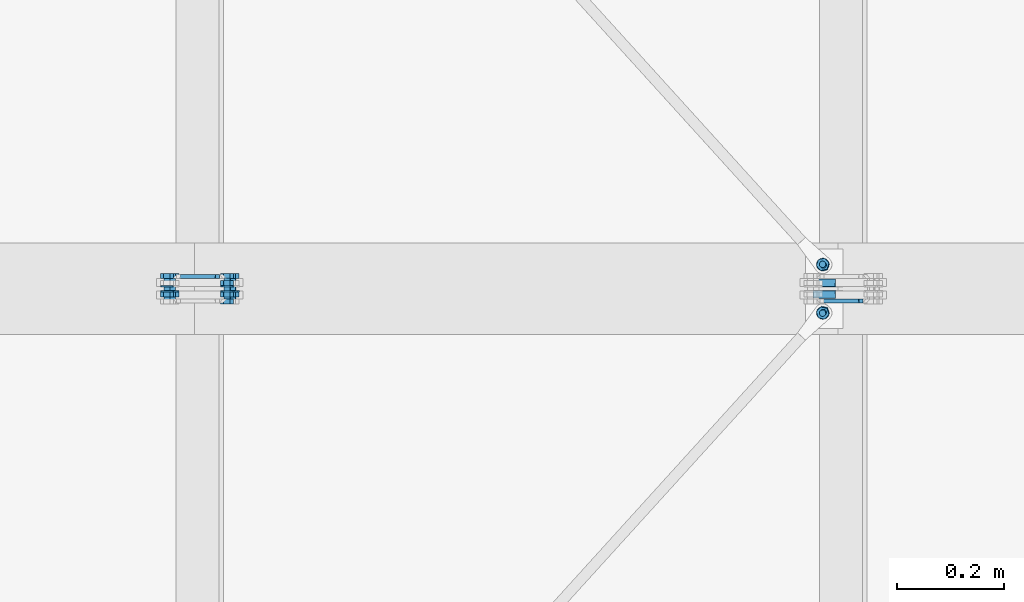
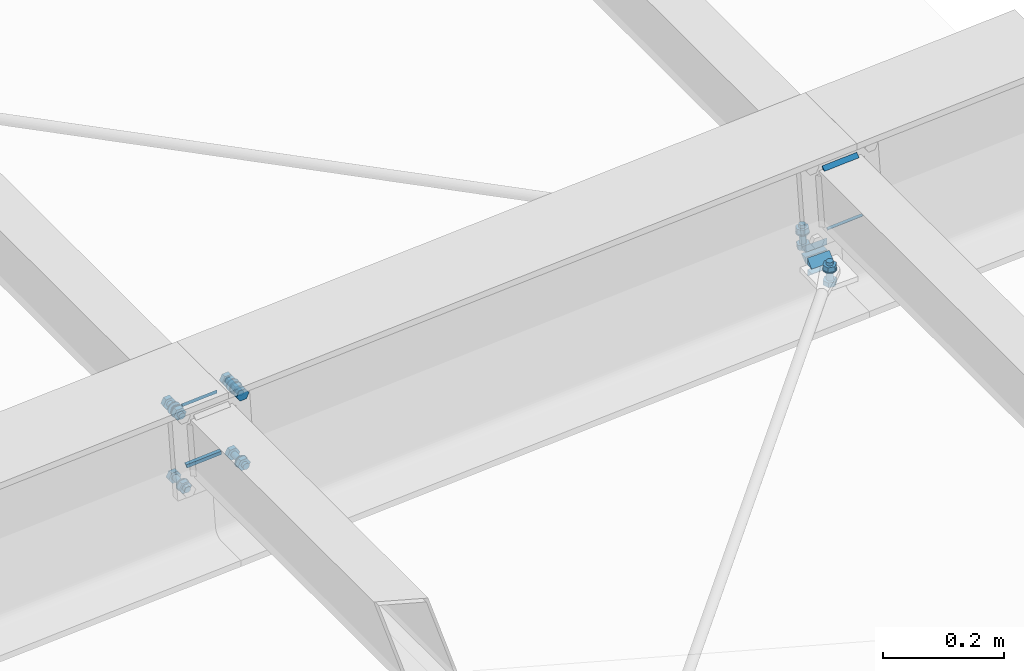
# One storey, part 51 of 72: 29 mechanical fasteners, 10 fasteners.
"""IFC4 building model written with IfcOpenShell, lengths in metres."""

from ifc_helpers import new_model, si_unit, frame, origin_with_axes, place, context, project, spatial, polyline, outline, extrude, type_object, element, save


model = new_model("IFC4")

# Units and contexts
model_context = context("Model", 3, precision=1e-05, world=origin_with_axes())
ifc_project = project(units=[si_unit("LENGTHUNIT", "METRE"), si_unit("AREAUNIT", "SQUARE_METRE"), si_unit("VOLUMEUNIT", "CUBIC_METRE"), si_unit("MASSUNIT", "GRAM", prefix="KILO"), si_unit("TIMEUNIT", "SECOND"), si_unit("PLANEANGLEUNIT", "RADIAN"), si_unit("SOLIDANGLEUNIT", "STERADIAN"), si_unit("THERMODYNAMICTEMPERATUREUNIT", "DEGREE_CELSIUS")], contexts=[model_context])

# Site, building, storey
placement_1 = place(None, origin_with_axes())
site = spatial("IfcSite", under=ifc_project, at=placement_1, Name="Italia", CompositionType="ELEMENT")
building = spatial("IfcBuilding", under=site, at=placement_1, Name="Pensilina", CompositionType="ELEMENT")
storey = spatial("IfcBuildingStorey", under=building, at=placement_1, Name="Storey 0", CompositionType="ELEMENT", Elevation=0.0)

# Mechanical fasteners
mechanical_fastener_type_1 = type_object("IfcMechanicalFastenerType", Name="Collegamento 0503_0502", PredefinedType="BOLT")
placement_2 = place(placement_1, origin_with_axes())
mechanical_fastener_1_placement = place(placement_2, origin_with_axes())
element("IfcMechanicalFastener", 1, at=mechanical_fastener_1_placement, inside=storey, type_object=mechanical_fastener_type_1, Name="Collegamento 0503_0502", NominalDiameter=0.024, context=model_context, shape_type="SweptSolid", body=[
    extrude(outline(polyline([(0.0, 0.0, 0.0), (-0.000409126, -0.00310564, 0.0), (-0.00160789, -0.00600004, 0.0), (-0.00351477, -0.00848532, 0.0), (-0.00600004, -0.0103922, 0.0), (-0.00889444, -0.011591, 0.0), (-0.0120001, -0.0120001, 0.0), (-0.0151057, -0.011591, 0.0), (-0.0180001, -0.0103922, 0.0), (-0.0204854, -0.00848532, 0.0), (-0.0223923, -0.00600004, 0.0), (-0.023591, -0.00310564, 0.0), (-0.0240002, 0.0, 0.0), (-0.023591, 0.00310564, 0.0), (-0.0223923, 0.00600004, 0.0), (-0.0204854, 0.00848532, 0.0), (-0.0180001, 0.0103922, 0.0), (-0.0151057, 0.011591, 0.0), (-0.0120001, 0.0120001, 0.0), (-0.00889444, 0.011591, 0.0), (-0.00600004, 0.0103922, 0.0), (-0.00351477, 0.00848532, 0.0), (-0.00160789, 0.00600004, 0.0), (-0.000409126, 0.00310564, 0.0), (0.0, 0.0, 0.0)])), frame((4.56362, 10.566, 4.01539), z_axis=(0.0, -1.0, 0.0), x_axis=(1.0, 0.0, 0.0)), (0.0, 0.0, 1.0), 0.00199986),
])
mechanical_fastener_type_2 = type_object("IfcMechanicalFastenerType", Name="Collegamento 0503_0502", PredefinedType="BOLT")
mechanical_fastener_2_placement = place(placement_2, origin_with_axes())
element("IfcMechanicalFastener", 2, at=mechanical_fastener_2_placement, inside=storey, type_object=mechanical_fastener_type_2, Name="Collegamento 0503_0502", NominalDiameter=0.012, context=model_context, shape_type="SweptSolid", body=[
    extrude(outline(polyline([(0.0, 0.0, 0.0), (-0.0119729, -0.000807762, 0.0), (-0.0186586, 0.00915718, 0.0), (-0.0133719, 0.0199299, 0.0), (-0.00139904, 0.0207376, 0.0), (0.00528669, 0.0107727, 0.0), (0.0, 0.0, 0.0)])), frame((4.67005, 10.541, 4.01296), z_axis=(0.0, -1.0, 0.0), x_axis=(1.0, 0.0, 0.0)), (0.0, 0.0, 1.0), 0.00959969),
])
mechanical_fastener_type_3 = type_object("IfcMechanicalFastenerType", Name="Collegamento 0503_0502", PredefinedType="BOLT")
mechanical_fastener_3_placement = place(placement_2, origin_with_axes())
element("IfcMechanicalFastener", 3, at=mechanical_fastener_3_placement, inside=storey, type_object=mechanical_fastener_type_3, Name="Collegamento 0503_0502", NominalDiameter=0.012, context=model_context, shape_type="SweptSolid", body=[
    extrude(outline(polyline([(0.0, 0.0, 0.0), (-0.000204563, -0.00155306, 0.0), (-0.000803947, -0.00299978, 0.0), (-0.00175762, -0.00424242, 0.0), (-0.00300026, -0.00519609, 0.0), (-0.00444698, -0.00579548, 0.0), (-0.00600004, -0.00600004, 0.0), (-0.0075531, -0.00579548, 0.0), (-0.00899982, -0.00519609, 0.0), (-0.0102425, -0.00424242, 0.0), (-0.0111961, -0.00299978, 0.0), (-0.0117955, -0.00155306, 0.0), (-0.0120001, 0.0, 0.0), (-0.0117955, 0.00155306, 0.0), (-0.0111961, 0.00299978, 0.0), (-0.0102425, 0.00424242, 0.0), (-0.00899982, 0.00519609, 0.0), (-0.0075531, 0.00579548, 0.0), (-0.00600004, 0.00600004, 0.0), (-0.00444698, 0.00579548, 0.0), (-0.00300026, 0.00519609, 0.0), (-0.00175762, 0.00424242, 0.0), (-0.000803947, 0.00299978, 0.0), (-0.000204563, 0.00155306, 0.0), (0.0, 0.0, 0.0)])), frame((4.66936, 10.582, 4.02292), z_axis=(0.0, -1.0, 0.0), x_axis=(1.0, 0.0, 0.0)), (0.0, 0.0, 1.0), 0.0410004),
])
mechanical_fastener_type_4 = type_object("IfcMechanicalFastenerType", Name="Collegamento 0503_0502", PredefinedType="BOLT")
mechanical_fastener_4_placement = place(placement_2, origin_with_axes())
element("IfcMechanicalFastener", 4, at=mechanical_fastener_4_placement, inside=storey, type_object=mechanical_fastener_type_4, Name="Collegamento 0503_0502", NominalDiameter=0.012, context=model_context, shape_type="SweptSolid", body=[
    extrude(outline(polyline([(0.0, 0.0, 0.0), (-0.0119729, -0.000807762, 0.0), (-0.0186586, 0.00915718, 0.0), (-0.0133719, 0.0199299, 0.0), (-0.00139904, 0.0207376, 0.0), (0.00528669, 0.0107727, 0.0), (0.0, 0.0, 0.0)])), frame((4.67005, 10.5756, 4.01296), z_axis=(0.0, -1.0, 0.0), x_axis=(1.0, 0.0, 0.0)), (0.0, 0.0, 1.0), 0.00959969),
])
mechanical_fastener_type_5 = type_object("IfcMechanicalFastenerType", Name="Collegamento 0503_0502", PredefinedType="BOLT")
mechanical_fastener_5_placement = place(placement_2, origin_with_axes())
element("IfcMechanicalFastener", 5, at=mechanical_fastener_5_placement, inside=storey, type_object=mechanical_fastener_type_5, Name="Collegamento 0503_0502", NominalDiameter=0.024, context=model_context, shape_type="SweptSolid", body=[
    extrude(outline(polyline([(0.0, 0.0, 0.0), (-0.000409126, -0.00310564, 0.0), (-0.00160789, -0.00600004, 0.0), (-0.00351477, -0.00848532, 0.0), (-0.00600004, -0.0103922, 0.0), (-0.00889444, -0.011591, 0.0), (-0.0120001, -0.0120001, 0.0), (-0.0151057, -0.011591, 0.0), (-0.0180001, -0.0103922, 0.0), (-0.0204854, -0.00848532, 0.0), (-0.0223923, -0.00600004, 0.0), (-0.023591, -0.00310564, 0.0), (-0.0240002, 0.0, 0.0), (-0.023591, 0.00310564, 0.0), (-0.0223923, 0.00600004, 0.0), (-0.0204854, 0.00848532, 0.0), (-0.0180001, 0.0103922, 0.0), (-0.0151057, 0.011591, 0.0), (-0.0120001, 0.0120001, 0.0), (-0.00889444, 0.011591, 0.0), (-0.00600004, 0.0103922, 0.0), (-0.00351477, 0.00848532, 0.0), (-0.00160789, 0.00600004, 0.0), (-0.000409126, 0.00310564, 0.0), (0.0, 0.0, 0.0)])), frame((4.67536, 10.566, 4.02292), z_axis=(0.0, -1.0, 0.0), x_axis=(1.0, 0.0, 0.0)), (0.0, 0.0, 1.0), 0.00199986),
])

# Fasteners
fastener_type_1 = type_object("IfcFastenerType", Name="Collegamento 0503_0504", PredefinedType="WELD")
fastener_1_placement = place(placement_2, origin_with_axes())
element("IfcFastener", 6, at=fastener_1_placement, inside=storey, type_object=fastener_type_1, Name="Collegamento 0503_0504", context=model_context, shape_type="SweptSolid", body=[
    extrude(outline(polyline([(0.0, 0.0, 0.0), (0.00717354, -0.00695825, 0.0), (0.0, -0.00695825, 0.0), (0.0, 0.0, 0.0)])), frame((4.57513, 10.5789, 4.00786), z_axis=(0.997731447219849, 0.0, 0.06731953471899), x_axis=(0.0, 1.0, 0.0)), (0.0, 0.0, 1.0), 0.0661003),
])
fastener_type_2 = type_object("IfcFastenerType", Name="Collegamento 0503_0504", PredefinedType="WELD")
fastener_2_placement = place(placement_2, origin_with_axes())
element("IfcFastener", 7, at=fastener_2_placement, inside=storey, type_object=fastener_type_2, Name="Collegamento 0503_0504", context=model_context, shape_type="SweptSolid", body=[
    extrude(outline(polyline([(0.0, 0.0, 0.0), (-0.00717354, 0.00695848, 0.0), (0.0, 0.00695848, 0.0), (0.0, 0.0, 0.0)])), frame((4.65009, 10.5789, 3.8788), z_axis=(-0.997731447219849, 0.0, -0.06731953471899), x_axis=(0.0, -1.0, 0.0)), (0.0, 0.0, 1.0), 0.0661003),
])
fastener_type_3 = type_object("IfcFastenerType", Name="Collegamento 0503_0504", PredefinedType="WELD")
fastener_3_placement = place(placement_2, origin_with_axes())
element("IfcFastener", 8, at=fastener_3_placement, inside=storey, type_object=fastener_type_3, Name="Collegamento 0503_0504", context=model_context, shape_type="SweptSolid", body=[
    extrude(outline(polyline([(0.0, 0.0, 0.0), (0.00717354, -0.00695825, 0.0), (0.0, -0.00695825, 0.0), (0.0, 0.0, 0.0)])), frame((4.57513, 10.5789, 4.00786), z_axis=(0.997731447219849, 0.0, 0.06731953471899), x_axis=(0.0, 1.0, 0.0)), (0.0, 0.0, 1.0), 0.0661003),
])
fastener_type_4 = type_object("IfcFastenerType", Name="Collegamento 0503_0504", PredefinedType="WELD")
fastener_4_placement = place(placement_2, origin_with_axes())
element("IfcFastener", 9, at=fastener_4_placement, inside=storey, type_object=fastener_type_4, Name="Collegamento 0503_0504", context=model_context, shape_type="SweptSolid", body=[
    extrude(outline(polyline([(0.0, 0.0, 0.0), (-0.00717354, 0.00695848, 0.0), (0.0, 0.00695848, 0.0), (0.0, 0.0, 0.0)])), frame((4.65009, 10.5789, 3.8788), z_axis=(-0.997731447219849, 0.0, -0.06731953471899), x_axis=(0.0, -1.0, 0.0)), (0.0, 0.0, 1.0), 0.0661003),
])

# Mechanical fasteners
mechanical_fastener_type_6 = type_object("IfcMechanicalFastenerType", Name="Collegamento 0503_0504", PredefinedType="BOLT")
mechanical_fastener_6_placement = place(placement_2, origin_with_axes())
element("IfcMechanicalFastener", 10, at=mechanical_fastener_6_placement, inside=storey, type_object=mechanical_fastener_type_6, Name="Collegamento 0503_0504", NominalDiameter=0.0119998, context=model_context, shape_type="SweptSolid", body=[
    extrude(outline(polyline([(0.0, 0.0, 0.0), (-0.0119729, 0.000807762, 0.0), (-0.0172596, 0.0115805, 0.0), (-0.0105739, 0.0215454, 0.0), (0.00139904, 0.0207374, 0.0), (0.00668573, 0.00996494, 0.0), (0.0, 0.0, 0.0)])), frame((4.66831, 10.579, 3.8605), z_axis=(0.0, 1.0, 0.0), x_axis=(-1.0, 0.0, 0.0)), (0.0, 0.0, 1.0), 0.00959969),
])
mechanical_fastener_type_7 = type_object("IfcMechanicalFastenerType", Name="Collegamento 0503_0504", PredefinedType="BOLT")
mechanical_fastener_7_placement = place(placement_2, origin_with_axes())
element("IfcMechanicalFastener", 11, at=mechanical_fastener_7_placement, inside=storey, type_object=mechanical_fastener_type_7, Name="Collegamento 0503_0504", NominalDiameter=0.012, context=model_context, shape_type="SweptSolid", body=[
    extrude(outline(polyline([(0.0, 0.0, 0.0), (-0.000204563, -0.00155282, 0.0), (-0.000803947, -0.00300002, 0.0), (-0.00175762, -0.00424266, 0.0), (-0.00300026, -0.00519609, 0.0), (-0.00444698, -0.00579548, 0.0), (-0.00600004, -0.00600004, 0.0), (-0.0075531, -0.00579548, 0.0), (-0.00899982, -0.00519609, 0.0), (-0.0102425, -0.00424266, 0.0), (-0.0111961, -0.00300002, 0.0), (-0.0117955, -0.00155282, 0.0), (-0.0120001, 0.0, 0.0), (-0.0117955, 0.00155282, 0.0), (-0.0111961, 0.00300002, 0.0), (-0.0102425, 0.00424266, 0.0), (-0.00899982, 0.00519609, 0.0), (-0.0075531, 0.00579548, 0.0), (-0.00600004, 0.00600004, 0.0), (-0.00444698, 0.00579548, 0.0), (-0.00300026, 0.00519609, 0.0), (-0.00175762, 0.00424266, 0.0), (-0.000803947, 0.00300002, 0.0), (-0.000204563, 0.00155282, 0.0), (0.0, 0.0, 0.0)])), frame((4.6676, 10.538, 3.87127), z_axis=(0.0, 1.0, 0.0), x_axis=(-1.0, 0.0, 0.0)), (0.0, 0.0, 1.0), 0.0410004),
])
mechanical_fastener_type_8 = type_object("IfcMechanicalFastenerType", Name="Collegamento 0503_0504", PredefinedType="BOLT")
mechanical_fastener_8_placement = place(placement_2, origin_with_axes())
element("IfcMechanicalFastener", 12, at=mechanical_fastener_8_placement, inside=storey, type_object=mechanical_fastener_type_8, Name="Collegamento 0503_0504", NominalDiameter=0.0119998, context=model_context, shape_type="SweptSolid", body=[
    extrude(outline(polyline([(0.0, 0.0, 0.0), (-0.0119729, 0.000807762, 0.0), (-0.0172596, 0.0115805, 0.0), (-0.0105739, 0.0215454, 0.0), (0.00139904, 0.0207374, 0.0), (0.00668573, 0.00996494, 0.0), (0.0, 0.0, 0.0)])), frame((4.66831, 10.5444, 3.8605), z_axis=(0.0, 1.0, 0.0), x_axis=(-1.0, 0.0, 0.0)), (0.0, 0.0, 1.0), 0.00959969),
])
mechanical_fastener_type_9 = type_object("IfcMechanicalFastenerType", Name="Collegamento 0503_0504", PredefinedType="BOLT")
mechanical_fastener_9_placement = place(placement_2, origin_with_axes())
element("IfcMechanicalFastener", 13, at=mechanical_fastener_9_placement, inside=storey, type_object=mechanical_fastener_type_9, Name="Collegamento 0503_0504", NominalDiameter=0.024, context=model_context, shape_type="SweptSolid", body=[
    extrude(outline(polyline([(0.0, 0.0, 0.0), (-0.000409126, -0.00310588, 0.0), (-0.00160789, -0.00600004, 0.0), (-0.00351477, -0.00848532, 0.0), (-0.00600004, -0.0103922, 0.0), (-0.00889444, -0.0115912, 0.0), (-0.0120001, -0.0120001, 0.0), (-0.0151057, -0.0115912, 0.0), (-0.0180001, -0.0103922, 0.0), (-0.0204854, -0.00848532, 0.0), (-0.0223923, -0.00600004, 0.0), (-0.023591, -0.00310588, 0.0), (-0.0240002, 0.0, 0.0), (-0.023591, 0.00310588, 0.0), (-0.0223923, 0.00600004, 0.0), (-0.0204854, 0.00848532, 0.0), (-0.0180001, 0.0103922, 0.0), (-0.0151057, 0.0115912, 0.0), (-0.0120001, 0.0120001, 0.0), (-0.00889444, 0.0115912, 0.0), (-0.00600004, 0.0103922, 0.0), (-0.00351477, 0.00848532, 0.0), (-0.00160789, 0.00600004, 0.0), (-0.000409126, 0.00310588, 0.0), (0.0, 0.0, 0.0)])), frame((4.6616, 10.554, 3.87127), z_axis=(0.0, 1.0, 0.0), x_axis=(-1.0, 0.0, 0.0)), (0.0, 0.0, 1.0), 0.00199986),
])
mechanical_fastener_type_10 = type_object("IfcMechanicalFastenerType", Name="Collegamento 0503_0504", PredefinedType="BOLT")
mechanical_fastener_10_placement = place(placement_2, origin_with_axes())
element("IfcMechanicalFastener", 14, at=mechanical_fastener_10_placement, inside=storey, type_object=mechanical_fastener_type_10, Name="Collegamento 0503_0504", NominalDiameter=0.0119998, context=model_context, shape_type="SweptSolid", body=[
    extrude(outline(polyline([(0.0, 0.0, 0.0), (-0.0119729, 0.000808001, 0.0), (-0.0172596, 0.0115805, 0.0), (-0.0105739, 0.0215454, 0.0), (0.00139904, 0.0207376, 0.0), (0.00668573, 0.00996494, 0.0), (0.0, 0.0, 0.0)])), frame((4.55656, 10.579, 3.85296), z_axis=(0.0, 1.0, 0.0), x_axis=(-1.0, 0.0, 0.0)), (0.0, 0.0, 1.0), 0.00959969),
])
mechanical_fastener_type_11 = type_object("IfcMechanicalFastenerType", Name="Collegamento 0503_0504", PredefinedType="BOLT")
mechanical_fastener_11_placement = place(placement_2, origin_with_axes())
element("IfcMechanicalFastener", 15, at=mechanical_fastener_11_placement, inside=storey, type_object=mechanical_fastener_type_11, Name="Collegamento 0503_0504", NominalDiameter=0.012, context=model_context, shape_type="SweptSolid", body=[
    extrude(outline(polyline([(0.0, 0.0, 0.0), (-0.000204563, -0.00155282, 0.0), (-0.000803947, -0.00300002, 0.0), (-0.00175762, -0.00424266, 0.0), (-0.00300026, -0.00519609, 0.0), (-0.00444698, -0.00579548, 0.0), (-0.00600004, -0.00600004, 0.0), (-0.0075531, -0.00579548, 0.0), (-0.00899982, -0.00519609, 0.0), (-0.0102425, -0.00424266, 0.0), (-0.0111961, -0.00300002, 0.0), (-0.0117955, -0.00155282, 0.0), (-0.0120001, 0.0, 0.0), (-0.0117955, 0.00155282, 0.0), (-0.0111961, 0.00300002, 0.0), (-0.0102425, 0.00424266, 0.0), (-0.00899982, 0.00519609, 0.0), (-0.0075531, 0.00579548, 0.0), (-0.00600004, 0.00600004, 0.0), (-0.00444698, 0.00579548, 0.0), (-0.00300026, 0.00519609, 0.0), (-0.00175762, 0.00424266, 0.0), (-0.000803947, 0.00300002, 0.0), (-0.000204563, 0.00155282, 0.0), (0.0, 0.0, 0.0)])), frame((4.55585, 10.538, 3.86373), z_axis=(0.0, 1.0, 0.0), x_axis=(-1.0, 0.0, 0.0)), (0.0, 0.0, 1.0), 0.0410004),
])
mechanical_fastener_type_12 = type_object("IfcMechanicalFastenerType", Name="Collegamento 0503_0504", PredefinedType="BOLT")
mechanical_fastener_12_placement = place(placement_2, origin_with_axes())
element("IfcMechanicalFastener", 16, at=mechanical_fastener_12_placement, inside=storey, type_object=mechanical_fastener_type_12, Name="Collegamento 0503_0504", NominalDiameter=0.0119998, context=model_context, shape_type="SweptSolid", body=[
    extrude(outline(polyline([(0.0, 0.0, 0.0), (-0.0119729, 0.000808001, 0.0), (-0.0172596, 0.0115805, 0.0), (-0.0105739, 0.0215454, 0.0), (0.00139904, 0.0207376, 0.0), (0.00668573, 0.00996494, 0.0), (0.0, 0.0, 0.0)])), frame((4.55656, 10.5444, 3.85296), z_axis=(0.0, 1.0, 0.0), x_axis=(-1.0, 0.0, 0.0)), (0.0, 0.0, 1.0), 0.00959969),
])
mechanical_fastener_type_13 = type_object("IfcMechanicalFastenerType", Name="Collegamento 0503_0504", PredefinedType="BOLT")
mechanical_fastener_13_placement = place(placement_2, origin_with_axes())
element("IfcMechanicalFastener", 17, at=mechanical_fastener_13_placement, inside=storey, type_object=mechanical_fastener_type_13, Name="Collegamento 0503_0504", NominalDiameter=0.024, context=model_context, shape_type="SweptSolid", body=[
    extrude(outline(polyline([(0.0, 0.0, 0.0), (-0.000409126, -0.00310588, 0.0), (-0.00160789, -0.00600004, 0.0), (-0.00351477, -0.00848532, 0.0), (-0.00600004, -0.0103922, 0.0), (-0.00889444, -0.0115912, 0.0), (-0.0120001, -0.0120001, 0.0), (-0.0151057, -0.0115912, 0.0), (-0.0180001, -0.0103922, 0.0), (-0.0204854, -0.00848532, 0.0), (-0.0223923, -0.00600004, 0.0), (-0.023591, -0.00310588, 0.0), (-0.0240002, 0.0, 0.0), (-0.023591, 0.00310588, 0.0), (-0.0223923, 0.00600004, 0.0), (-0.0204854, 0.00848532, 0.0), (-0.0180001, 0.0103922, 0.0), (-0.0151057, 0.0115912, 0.0), (-0.0120001, 0.0120001, 0.0), (-0.00889444, 0.0115912, 0.0), (-0.00600004, 0.0103922, 0.0), (-0.00351477, 0.00848532, 0.0), (-0.00160789, 0.00600004, 0.0), (-0.000409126, 0.00310588, 0.0), (0.0, 0.0, 0.0)])), frame((4.54985, 10.554, 3.86373), z_axis=(0.0, 1.0, 0.0), x_axis=(-1.0, 0.0, 0.0)), (0.0, 0.0, 1.0), 0.00199986),
])
mechanical_fastener_type_14 = type_object("IfcMechanicalFastenerType", Name="Collegamento 0503_0504", PredefinedType="BOLT")
mechanical_fastener_14_placement = place(placement_2, origin_with_axes())
element("IfcMechanicalFastener", 18, at=mechanical_fastener_14_placement, inside=storey, type_object=mechanical_fastener_type_14, Name="Collegamento 0503_0504", NominalDiameter=0.012, context=model_context, shape_type="SweptSolid", body=[
    extrude(outline(polyline([(0.0, 0.0, 0.0), (-0.0119729, 0.000807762, 0.0), (-0.0172596, 0.0115805, 0.0), (-0.0105739, 0.0215454, 0.0), (0.00139904, 0.0207376, 0.0), (0.00668573, 0.00996494, 0.0), (0.0, 0.0, 0.0)])), frame((4.65808, 10.579, 4.01215), z_axis=(0.0, 1.0, 0.0), x_axis=(-1.0, 0.0, 0.0)), (0.0, 0.0, 1.0), 0.00959969),
])
mechanical_fastener_type_15 = type_object("IfcMechanicalFastenerType", Name="Collegamento 0503_0504", PredefinedType="BOLT")
mechanical_fastener_15_placement = place(placement_2, origin_with_axes())
element("IfcMechanicalFastener", 19, at=mechanical_fastener_15_placement, inside=storey, type_object=mechanical_fastener_type_15, Name="Collegamento 0503_0504", NominalDiameter=0.012, context=model_context, shape_type="SweptSolid", body=[
    extrude(outline(polyline([(0.0, 0.0, 0.0), (-0.000204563, -0.00155306, 0.0), (-0.000803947, -0.00299978, 0.0), (-0.00175762, -0.00424242, 0.0), (-0.00300026, -0.00519609, 0.0), (-0.00444698, -0.00579548, 0.0), (-0.00600004, -0.00600004, 0.0), (-0.0075531, -0.00579548, 0.0), (-0.00899982, -0.00519609, 0.0), (-0.0102425, -0.00424242, 0.0), (-0.0111961, -0.00299978, 0.0), (-0.0117955, -0.00155306, 0.0), (-0.0120001, 0.0, 0.0), (-0.0117955, 0.00155306, 0.0), (-0.0111961, 0.00299978, 0.0), (-0.0102425, 0.00424242, 0.0), (-0.00899982, 0.00519609, 0.0), (-0.0075531, 0.00579548, 0.0), (-0.00600004, 0.00600004, 0.0), (-0.00444698, 0.00579548, 0.0), (-0.00300026, 0.00519609, 0.0), (-0.00175762, 0.00424242, 0.0), (-0.000803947, 0.00299978, 0.0), (-0.000204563, 0.00155306, 0.0), (0.0, 0.0, 0.0)])), frame((4.65736, 10.538, 4.02292), z_axis=(0.0, 1.0, 0.0), x_axis=(-1.0, 0.0, 0.0)), (0.0, 0.0, 1.0), 0.0410004),
])
mechanical_fastener_type_16 = type_object("IfcMechanicalFastenerType", Name="Collegamento 0503_0504", PredefinedType="BOLT")
mechanical_fastener_16_placement = place(placement_2, origin_with_axes())
element("IfcMechanicalFastener", 20, at=mechanical_fastener_16_placement, inside=storey, type_object=mechanical_fastener_type_16, Name="Collegamento 0503_0504", NominalDiameter=0.012, context=model_context, shape_type="SweptSolid", body=[
    extrude(outline(polyline([(0.0, 0.0, 0.0), (-0.0119729, 0.000807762, 0.0), (-0.0172596, 0.0115805, 0.0), (-0.0105739, 0.0215454, 0.0), (0.00139904, 0.0207376, 0.0), (0.00668573, 0.00996494, 0.0), (0.0, 0.0, 0.0)])), frame((4.65808, 10.5444, 4.01215), z_axis=(0.0, 1.0, 0.0), x_axis=(-1.0, 0.0, 0.0)), (0.0, 0.0, 1.0), 0.00959969),
])
mechanical_fastener_type_17 = type_object("IfcMechanicalFastenerType", Name="Collegamento 0503_0504", PredefinedType="BOLT")
mechanical_fastener_17_placement = place(placement_2, origin_with_axes())
element("IfcMechanicalFastener", 21, at=mechanical_fastener_17_placement, inside=storey, type_object=mechanical_fastener_type_17, Name="Collegamento 0503_0504", NominalDiameter=0.024, context=model_context, shape_type="SweptSolid", body=[
    extrude(outline(polyline([(0.0, 0.0, 0.0), (-0.000409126, -0.00310564, 0.0), (-0.00160789, -0.00600004, 0.0), (-0.00351477, -0.00848532, 0.0), (-0.00600004, -0.0103922, 0.0), (-0.00889444, -0.011591, 0.0), (-0.0120001, -0.0120001, 0.0), (-0.0151057, -0.011591, 0.0), (-0.0180001, -0.0103922, 0.0), (-0.0204854, -0.00848532, 0.0), (-0.0223923, -0.00600004, 0.0), (-0.023591, -0.00310564, 0.0), (-0.0240002, 0.0, 0.0), (-0.023591, 0.00310564, 0.0), (-0.0223923, 0.00600004, 0.0), (-0.0204854, 0.00848532, 0.0), (-0.0180001, 0.0103922, 0.0), (-0.0151057, 0.011591, 0.0), (-0.0120001, 0.0120001, 0.0), (-0.00889444, 0.011591, 0.0), (-0.00600004, 0.0103922, 0.0), (-0.00351477, 0.00848532, 0.0), (-0.00160789, 0.00600004, 0.0), (-0.000409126, 0.00310564, 0.0), (0.0, 0.0, 0.0)])), frame((4.65136, 10.554, 4.02292), z_axis=(0.0, 1.0, 0.0), x_axis=(-1.0, 0.0, 0.0)), (0.0, 0.0, 1.0), 0.00199986),
])
mechanical_fastener_type_18 = type_object("IfcMechanicalFastenerType", Name="Collegamento 0503_0504", PredefinedType="BOLT")
mechanical_fastener_18_placement = place(placement_2, origin_with_axes())
element("IfcMechanicalFastener", 22, at=mechanical_fastener_18_placement, inside=storey, type_object=mechanical_fastener_type_18, Name="Collegamento 0503_0504", NominalDiameter=0.012, context=model_context, shape_type="SweptSolid", body=[
    extrude(outline(polyline([(0.0, 0.0, 0.0), (-0.0119729, 0.000807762, 0.0), (-0.0172596, 0.0115805, 0.0), (-0.0105739, 0.0215454, 0.0), (0.00139904, 0.0207376, 0.0), (0.00668573, 0.00996494, 0.0), (0.0, 0.0, 0.0)])), frame((4.54633, 10.579, 4.00461), z_axis=(0.0, 1.0, 0.0), x_axis=(-1.0, 0.0, 0.0)), (0.0, 0.0, 1.0), 0.00959969),
])
mechanical_fastener_type_19 = type_object("IfcMechanicalFastenerType", Name="Collegamento 0503_0504", PredefinedType="BOLT")
mechanical_fastener_19_placement = place(placement_2, origin_with_axes())
element("IfcMechanicalFastener", 23, at=mechanical_fastener_19_placement, inside=storey, type_object=mechanical_fastener_type_19, Name="Collegamento 0503_0504", NominalDiameter=0.012, context=model_context, shape_type="SweptSolid", body=[
    extrude(outline(polyline([(0.0, 0.0, 0.0), (-0.000204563, -0.00155306, 0.0), (-0.000803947, -0.00299978, 0.0), (-0.00175762, -0.00424242, 0.0), (-0.00300026, -0.00519609, 0.0), (-0.00444698, -0.00579548, 0.0), (-0.00600004, -0.00600004, 0.0), (-0.0075531, -0.00579548, 0.0), (-0.00899982, -0.00519609, 0.0), (-0.0102425, -0.00424242, 0.0), (-0.0111961, -0.00299978, 0.0), (-0.0117955, -0.00155306, 0.0), (-0.0120001, 0.0, 0.0), (-0.0117955, 0.00155306, 0.0), (-0.0111961, 0.00299978, 0.0), (-0.0102425, 0.00424242, 0.0), (-0.00899982, 0.00519609, 0.0), (-0.0075531, 0.00579548, 0.0), (-0.00600004, 0.00600004, 0.0), (-0.00444698, 0.00579548, 0.0), (-0.00300026, 0.00519609, 0.0), (-0.00175762, 0.00424242, 0.0), (-0.000803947, 0.00299978, 0.0), (-0.000204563, 0.00155306, 0.0), (0.0, 0.0, 0.0)])), frame((4.54562, 10.538, 4.01539), z_axis=(0.0, 1.0, 0.0), x_axis=(-1.0, 0.0, 0.0)), (0.0, 0.0, 1.0), 0.0410004),
])
mechanical_fastener_type_20 = type_object("IfcMechanicalFastenerType", Name="Collegamento 0503_0504", PredefinedType="BOLT")
mechanical_fastener_20_placement = place(placement_2, origin_with_axes())
element("IfcMechanicalFastener", 24, at=mechanical_fastener_20_placement, inside=storey, type_object=mechanical_fastener_type_20, Name="Collegamento 0503_0504", NominalDiameter=0.012, context=model_context, shape_type="SweptSolid", body=[
    extrude(outline(polyline([(0.0, 0.0, 0.0), (-0.0119729, 0.000807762, 0.0), (-0.0172596, 0.0115805, 0.0), (-0.0105739, 0.0215454, 0.0), (0.00139904, 0.0207376, 0.0), (0.00668573, 0.00996494, 0.0), (0.0, 0.0, 0.0)])), frame((4.54633, 10.5444, 4.00461), z_axis=(0.0, 1.0, 0.0), x_axis=(-1.0, 0.0, 0.0)), (0.0, 0.0, 1.0), 0.00959969),
])
mechanical_fastener_type_21 = type_object("IfcMechanicalFastenerType", Name="Collegamento 0503_0504", PredefinedType="BOLT")
mechanical_fastener_21_placement = place(placement_2, origin_with_axes())
element("IfcMechanicalFastener", 25, at=mechanical_fastener_21_placement, inside=storey, type_object=mechanical_fastener_type_21, Name="Collegamento 0503_0504", NominalDiameter=0.024, context=model_context, shape_type="SweptSolid", body=[
    extrude(outline(polyline([(0.0, 0.0, 0.0), (-0.000409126, -0.00310564, 0.0), (-0.00160789, -0.00600004, 0.0), (-0.00351477, -0.00848532, 0.0), (-0.00600004, -0.0103922, 0.0), (-0.00889444, -0.011591, 0.0), (-0.0120001, -0.0120001, 0.0), (-0.0151057, -0.011591, 0.0), (-0.0180001, -0.0103922, 0.0), (-0.0204854, -0.00848532, 0.0), (-0.0223923, -0.00600004, 0.0), (-0.023591, -0.00310564, 0.0), (-0.0240002, 0.0, 0.0), (-0.023591, 0.00310564, 0.0), (-0.0223923, 0.00600004, 0.0), (-0.0204854, 0.00848532, 0.0), (-0.0180001, 0.0103922, 0.0), (-0.0151057, 0.011591, 0.0), (-0.0120001, 0.0120001, 0.0), (-0.00889444, 0.011591, 0.0), (-0.00600004, 0.0103922, 0.0), (-0.00351477, 0.00848532, 0.0), (-0.00160789, 0.00600004, 0.0), (-0.000409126, 0.00310564, 0.0), (0.0, 0.0, 0.0)])), frame((4.53962, 10.554, 4.01539), z_axis=(0.0, 1.0, 0.0), x_axis=(-1.0, 0.0, 0.0)), (0.0, 0.0, 1.0), 0.00199986),
])
mechanical_fastener_type_22 = type_object("IfcMechanicalFastenerType", Name="Collegamento 0603_0202", PredefinedType="BOLT")
mechanical_fastener_22_placement = place(placement_2, origin_with_axes())
element("IfcMechanicalFastener", 26, at=mechanical_fastener_22_placement, inside=storey, type_object=mechanical_fastener_type_22, Name="Collegamento 0603_0202", NominalDiameter=0.0119997, context=model_context, shape_type="SweptSolid", body=[
    extrude(outline(polyline([(0.0, 0.0, 0.0), (1.69277e-05, 0.0120001, 0.0), (-0.0103664, 0.0180159, 0.0), (-0.0207672, 0.0120306, 0.0), (-0.0207849, 3.05176e-05, 0.0), (-0.0104015, -0.00598526, 0.0), (0.0, 0.0, 0.0)])), frame((5.76071, 10.5184, 3.87753), z_axis=(0.030994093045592, 0.034073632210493, -0.998938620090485), x_axis=(-0.73974484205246, 0.6728875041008, 0.0)), (0.0, 0.0, 1.0), 0.0096001),
])
mechanical_fastener_type_23 = type_object("IfcMechanicalFastenerType", Name="Collegamento 0603_0202", PredefinedType="BOLT")
mechanical_fastener_23_placement = place(placement_2, origin_with_axes())
element("IfcMechanicalFastener", 27, at=mechanical_fastener_23_placement, inside=storey, type_object=mechanical_fastener_type_23, Name="Collegamento 0603_0202", NominalDiameter=0.012, context=model_context, shape_type="SweptSolid", body=[
    extrude(outline(polyline([(0.0, 0.0, 0.0), (-0.000204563, -0.00155258, 0.0), (-0.000803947, -0.00299931, 0.0), (-0.00175738, -0.0042429, 0.0), (-0.00300002, -0.00519562, 0.0), (-0.00444746, -0.00579548, 0.0), (-0.00600028, -0.00599957, 0.0), (-0.00755286, -0.00579548, 0.0), (-0.00900006, -0.00519562, 0.0), (-0.0102425, -0.00424194, 0.0), (-0.0111964, -0.00300026, 0.0), (-0.0117958, -0.00155258, 0.0), (-0.0120003, 0.0, 0.0), (-0.0117958, 0.00155258, 0.0), (-0.0111964, 0.00300026, 0.0), (-0.0102429, 0.0042429, 0.0), (-0.0090003, 0.00519657, 0.0), (-0.00755286, 0.00579643, 0.0), (-0.00600004, 0.00600052, 0.0), (-0.00444746, 0.00579548, 0.0), (-0.00300026, 0.00519657, 0.0), (-0.00175786, 0.0042429, 0.0), (-0.000803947, 0.00300026, 0.0), (-0.000204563, 0.00155258, 0.0), (0.0, 0.0, 0.0)])), frame((5.76681, 10.5185, 3.91576), z_axis=(0.030969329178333, 0.034156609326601, -0.998936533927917), x_axis=(-0.74082612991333, 0.671696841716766, 0.0)), (0.0, 0.0, 1.0), 0.038),
])
mechanical_fastener_type_24 = type_object("IfcMechanicalFastenerType", Name="Collegamento 0603_0202", PredefinedType="BOLT")
mechanical_fastener_24_placement = place(placement_2, origin_with_axes())
element("IfcMechanicalFastener", 28, at=mechanical_fastener_24_placement, inside=storey, type_object=mechanical_fastener_type_24, Name="Collegamento 0603_0202", NominalDiameter=0.0119999, context=model_context, shape_type="SweptSolid", body=[
    extrude(outline(polyline([(0.0, 0.0, 0.0), (2.38419e-07, 0.0120001, 0.0), (-0.0103924, 0.0179996, 0.0), (-0.0207846, 0.0120001, 0.0), (-0.0207853, 0.0, 0.0), (-0.0103927, -0.00599957, 0.0), (0.0, 0.0, 0.0)])), frame((5.75973, 10.5173, 3.90909), z_axis=(0.030993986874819, 0.034172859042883, -0.998935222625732), x_axis=(-0.740719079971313, 0.671814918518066, 0.0)), (0.0, 0.0, 1.0), 0.00960013),
])
mechanical_fastener_type_25 = type_object("IfcMechanicalFastenerType", Name="Collegamento 0603_0202", PredefinedType="BOLT")
mechanical_fastener_25_placement = place(placement_2, origin_with_axes())
element("IfcMechanicalFastener", 29, at=mechanical_fastener_25_placement, inside=storey, type_object=mechanical_fastener_type_25, Name="Collegamento 0603_0202", NominalDiameter=0.024, context=model_context, shape_type="SweptSolid", body=[
    extrude(outline(polyline([(0.0, 0.0, 0.0), (-0.000408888, -0.00310612, 0.0), (-0.00160766, -0.00600052, 0.0), (-0.00351453, -0.00848579, 0.0), (-0.0059998, -0.0103922, 0.0), (-0.00889397, -0.011591, 0.0), (-0.0119998, -0.0120001, 0.0), (-0.0151055, -0.011591, 0.0), (-0.0179996, -0.0103922, 0.0), (-0.0204854, -0.00848579, 0.0), (-0.0223925, -0.00600052, 0.0), (-0.0235908, -0.00310516, 0.0), (-0.0239997, 0.0, 0.0), (-0.0235906, 0.00310612, 0.0), (-0.0223918, 0.00600052, 0.0), (-0.0204849, 0.00848484, 0.0), (-0.0179996, 0.0103922, 0.0), (-0.0151055, 0.011591, 0.0), (-0.0119996, 0.0120001, 0.0), (-0.00889397, 0.011591, 0.0), (-0.0059998, 0.0103922, 0.0), (-0.00351405, 0.00848579, 0.0), (-0.00160694, 0.00600052, 0.0), (-0.000408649, 0.00310516, 0.0), (0.0, 0.0, 0.0)])), frame((5.76296, 10.5232, 3.89978), z_axis=(0.03099774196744, 0.033382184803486, -0.998961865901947), x_axis=(-0.732793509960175, 0.680451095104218, 0.0)), (0.0, 0.0, 1.0), 0.00199979),
])

# Fasteners
fastener_type_5 = type_object("IfcFastenerType", Name="Collegamento 0603_0202", PredefinedType="WELD")
fastener_5_placement = place(placement_2, origin_with_axes())
element("IfcFastener", 30, at=fastener_5_placement, inside=storey, type_object=fastener_type_5, Name="Collegamento 0603_0202", context=model_context, shape_type="SweptSolid", body=[
    extrude(outline(polyline([(0.0, 0.0, 0.0), (0.0136957, -0.0142241, 0.0), (-0.000469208, -0.0137398, 0.0), (0.0, 0.0, 0.0)])), frame((5.79467, 10.5558, 3.90358), z_axis=(-0.99951958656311, 0.0, -0.030993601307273), x_axis=(0.0, -1.0, 0.0)), (0.0, 0.0, 1.0), 0.0421011),
])
fastener_type_6 = type_object("IfcFastenerType", Name="Collegamento 0603_0202", PredefinedType="WELD")
fastener_6_placement = place(placement_2, origin_with_axes())
element("IfcFastener", 31, at=fastener_6_placement, inside=storey, type_object=fastener_type_6, Name="Collegamento 0603_0202", context=model_context, shape_type="SweptSolid", body=[
    extrude(outline(polyline([(0.0, 0.0, 0.0), (-0.0146341, 0.0132561, 0.0), (-0.000469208, 0.0137398, 0.0), (0.0, 0.0, 0.0)])), frame((5.75375, 10.557, 3.86492), z_axis=(0.999519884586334, 0.0, 0.030982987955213), x_axis=(0.0, 1.0, 0.0)), (0.0, 0.0, 1.0), 0.0421001),
])

# Mechanical fasteners
mechanical_fastener_type_26 = type_object("IfcMechanicalFastenerType", Name="Collegamento 0603_0204", PredefinedType="BOLT")
mechanical_fastener_26_placement = place(placement_2, origin_with_axes())
element("IfcMechanicalFastener", 32, at=mechanical_fastener_26_placement, inside=storey, type_object=mechanical_fastener_type_26, Name="Collegamento 0603_0204", NominalDiameter=0.0119994, context=model_context, shape_type="SweptSolid", body=[
    extrude(outline(polyline([(0.0, 0.0, 0.0), (9.53674e-06, 0.0120006, 0.0), (-0.0103779, 0.0180082, 0.0), (-0.0207748, 0.0120161, 0.0), (-0.0207844, 1.66893e-05, 0.0), (-0.010397, -0.00599146, 0.0), (0.0, 0.0, 0.0)])), frame((5.7761, 10.6156, 3.89755), z_axis=(0.030945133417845, -0.034173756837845, -0.998936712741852), x_axis=(0.741254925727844, 0.671223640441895, 0.0)), (0.0, 0.0, 1.0), 0.00959988),
])
mechanical_fastener_type_27 = type_object("IfcMechanicalFastenerType", Name="Collegamento 0603_0204", PredefinedType="BOLT")
mechanical_fastener_27_placement = place(placement_2, origin_with_axes())
element("IfcMechanicalFastener", 33, at=mechanical_fastener_27_placement, inside=storey, type_object=mechanical_fastener_type_27, Name="Collegamento 0603_0204", NominalDiameter=0.012, context=model_context, shape_type="SweptSolid", body=[
    extrude(outline(polyline([(0.0, 0.0, 0.0), (-0.00020504, -0.00155258, 0.0), (-0.000803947, -0.00299954, 0.0), (-0.00175762, -0.00424266, 0.0), (-0.00300121, -0.00519562, 0.0), (-0.00444794, -0.005795, 0.0), (-0.00600052, -0.0059998, 0.0), (-0.0075531, -0.00579572, 0.0), (-0.00900078, -0.00519609, 0.0), (-0.0102434, -0.00424194, 0.0), (-0.0111971, -0.00300002, 0.0), (-0.011796, -0.00155258, 0.0), (-0.012001, 7.15256e-07, 0.0), (-0.011796, 0.0015533, 0.0), (-0.0111971, 0.00300026, 0.0), (-0.0102434, 0.00424337, 0.0), (-0.00900078, 0.00519633, 0.0), (-0.0075531, 0.00579572, 0.0), (-0.00600147, 0.00600052, 0.0), (-0.00444794, 0.00579643, 0.0), (-0.00300121, 0.00519681, 0.0), (-0.00175762, 0.00424266, 0.0), (-0.000804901, 0.00300074, 0.0), (-0.00020504, 0.0015533, 0.0), (0.0, 0.0, 0.0)])), frame((5.77569, 10.6095, 3.93578), z_axis=(0.030981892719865, -0.034131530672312, -0.998937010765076), x_axis=(0.740444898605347, 0.672117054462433, 0.0)), (0.0, 0.0, 1.0), 0.038),
])
mechanical_fastener_type_28 = type_object("IfcMechanicalFastenerType", Name="Collegamento 0603_0204", PredefinedType="BOLT")
mechanical_fastener_28_placement = place(placement_2, origin_with_axes())
element("IfcMechanicalFastener", 34, at=mechanical_fastener_28_placement, inside=storey, type_object=mechanical_fastener_type_28, Name="Collegamento 0603_0204", NominalDiameter=0.0119997, context=model_context, shape_type="SweptSolid", body=[
    extrude(outline(polyline([(0.0, 0.0, 0.0), (-1.71661e-05, 0.0119996, 0.0), (-0.0104179, 0.0179846, 0.0), (-0.0208015, 0.0119698, 0.0), (-0.0207844, -3.05176e-05, 0.0), (-0.0103827, -0.00601554, 0.0), (0.0, 0.0, 0.0)])), frame((5.77512, 10.6167, 3.92911), z_axis=(0.030994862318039, -0.034074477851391, -0.99893856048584), x_axis=(0.73974484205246, 0.6728875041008, 0.0)), (0.0, 0.0, 1.0), 0.00959986),
])
mechanical_fastener_type_29 = type_object("IfcMechanicalFastenerType", Name="Collegamento 0603_0204", PredefinedType="BOLT")
mechanical_fastener_29_placement = place(placement_2, origin_with_axes())
element("IfcMechanicalFastener", 35, at=mechanical_fastener_29_placement, inside=storey, type_object=mechanical_fastener_type_29, Name="Collegamento 0603_0204", NominalDiameter=0.024, context=model_context, shape_type="SweptSolid", body=[
    extrude(outline(polyline([(0.0, 0.0, 0.0), (-0.00041008, -0.00310564, 0.0), (-0.00160885, -0.0059998, 0.0), (-0.00351524, -0.00848484, 0.0), (-0.00600052, -0.0103924, 0.0), (-0.00889492, -0.0115907, 0.0), (-0.012001, -0.0120001, 0.0), (-0.0151062, -0.0115912, 0.0), (-0.0180006, -0.0103924, 0.0), (-0.0204859, -0.00848508, 0.0), (-0.0223923, -0.00600004, 0.0), (-0.023592, -0.0031054, 0.0), (-0.0240011, 2.38419e-07, 0.0), (-0.023591, 0.00310588, 0.0), (-0.0223923, 0.00600004, 0.0), (-0.0204859, 0.00848508, 0.0), (-0.0180006, 0.0103927, 0.0), (-0.0151062, 0.011591, 0.0), (-0.0120001, 0.0120003, 0.0), (-0.00889492, 0.0115914, 0.0), (-0.00600052, 0.0103924, 0.0), (-0.00351524, 0.00848532, 0.0), (-0.00160885, 0.00600028, 0.0), (-0.000409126, 0.00310564, 0.0), (0.0, 0.0, 0.0)])), frame((5.78065, 10.613, 3.9198), z_axis=(0.030993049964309, -0.034330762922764, -0.998929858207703), x_axis=(0.742268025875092, 0.670103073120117, 0.0)), (0.0, 0.0, 1.0), 0.00200009),
])

# Fasteners
fastener_type_7 = type_object("IfcFastenerType", Name="Collegamento 0603_0204", PredefinedType="WELD")
fastener_7_placement = place(placement_2, origin_with_axes())
element("IfcFastener", 36, at=fastener_7_placement, inside=storey, type_object=fastener_type_7, Name="Collegamento 0603_0204", context=model_context, shape_type="SweptSolid", body=[
    extrude(outline(polyline([(0.0, 0.0, 0.0), (0.0136957, -0.0142243, 0.0), (-0.000469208, -0.0137403, 0.0), (0.0, 0.0, 0.0)])), frame((5.75258, 10.5642, 3.9223), z_axis=(0.9995197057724, 0.0, 0.030989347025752), x_axis=(0.0, 1.0, 0.0)), (0.0, 0.0, 1.0), 0.0420992),
])
fastener_type_8 = type_object("IfcFastenerType", Name="Collegamento 0603_0204", PredefinedType="WELD")
fastener_8_placement = place(placement_2, origin_with_axes())
element("IfcFastener", 37, at=fastener_8_placement, inside=storey, type_object=fastener_type_8, Name="Collegamento 0603_0204", context=model_context, shape_type="SweptSolid", body=[
    extrude(outline(polyline([(0.0, 0.0, 0.0), (-0.0146341, 0.0132558, 0.0), (-0.000469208, 0.0137398, 0.0), (0.0, 0.0, 0.0)])), frame((5.79582, 10.563, 3.88625), z_axis=(-0.999519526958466, 0.0, -0.030994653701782), x_axis=(0.0, -1.0, 0.0)), (0.0, 0.0, 1.0), 0.0420997),
])
fastener_type_9 = type_object("IfcFastenerType", Name="Collegamento 0603_0602", PredefinedType="WELD")
fastener_9_placement = place(placement_2, origin_with_axes())
element("IfcFastener", 38, at=fastener_9_placement, inside=storey, type_object=fastener_type_9, Name="Collegamento 0603_0602", context=model_context, shape_type="SweptSolid", body=[
    extrude(outline(polyline([(0.0, 0.0, 0.0), (0.00717354, -0.00695801, 0.0), (0.0, -0.00695801, 0.0), (0.0, 0.0, 0.0)])), frame((5.83828, 10.5411, 4.09456), z_axis=(-0.997731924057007, 0.0, -0.067312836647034), x_axis=(0.0, -1.0, 0.0)), (0.0, 0.0, 1.0), 0.0660998),
])
fastener_type_10 = type_object("IfcFastenerType", Name="Collegamento 0603_0602", PredefinedType="WELD")
fastener_10_placement = place(placement_2, origin_with_axes())
element("IfcFastener", 39, at=fastener_10_placement, inside=storey, type_object=fastener_type_10, Name="Collegamento 0603_0602", context=model_context, shape_type="SweptSolid", body=[
    extrude(outline(polyline([(0.0, 0.0, 0.0), (-0.00717354, 0.00695801, 0.0), (0.0, 0.00695801, 0.0), (0.0, 0.0, 0.0)])), frame((5.78134, 10.5411, 3.9566), z_axis=(0.997731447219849, 0.0, 0.06731953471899), x_axis=(0.0, 1.0, 0.0)), (0.0, 0.0, 1.0), 0.0661003),
])

save(model, "model.ifc")
